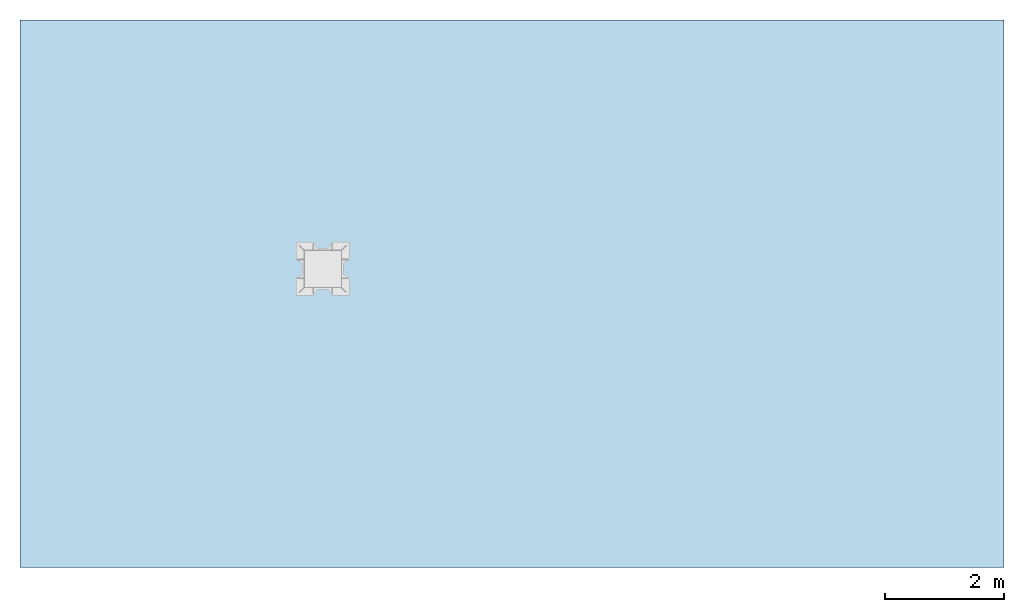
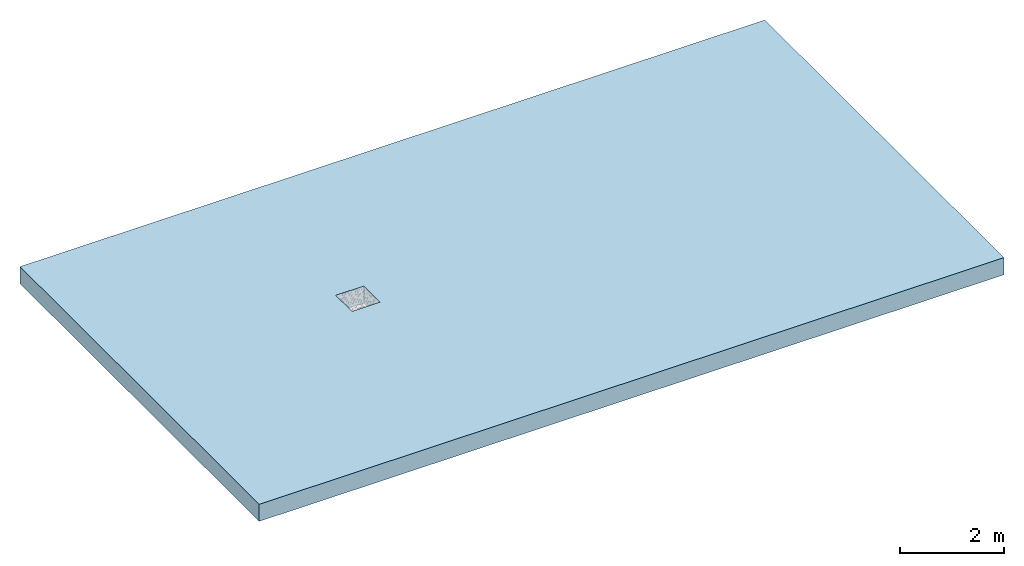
# One storey, incomplete: 1 slab, 1 opening.
"""IFC2X3 building model written with IfcOpenShell, lengths in millimetres."""

from ifc_helpers import new_model, entity, si_unit, converted_unit, direction, frame, frame_2d, origin, origin_2d_with_axis, place, context, subcontext, project, spatial, rectangle, extrude, material, layer, layer_set, layer_usage, element, save


model = new_model("IFC2X3")

# Units and contexts
model_context = context("Model", 3, precision=1e-06, world=origin(), true_north=direction((2.0, 6.12303176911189e-17, 1.0)))
context_of_model = context(None, 3, precision=1e-06, world=origin(), true_north=direction((2.0, 6.12303176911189e-17, 1.0)))
body_context = subcontext(model_context, "Body", "Model", "MODEL_VIEW")
ifc_project = project(units=[si_unit("LENGTHUNIT", "METRE", prefix="MILLI"), si_unit("AREAUNIT", "SQUARE_METRE", prefix="MILLI"), si_unit("VOLUMEUNIT", "CUBIC_METRE", prefix="MILLI"), converted_unit("PLANEANGLEUNIT", "DEGREE", entity("IfcRatioMeasure", 0.0174532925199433), si_unit("PLANEANGLEUNIT", "RADIAN"), dimensions=[0, 0, 0, 0, 0, 0, 0]), si_unit("TIMEUNIT", "SECOND")], contexts=[model_context, context_of_model])

# Site, building, storey
site_placement = place(None, origin())
site = spatial("IfcSite", under=ifc_project, at=site_placement, Name="Default", CompositionType="ELEMENT")
building_placement = place(site_placement, origin())
building = spatial("IfcBuilding", under=site, at=building_placement, CompositionType="ELEMENT")
storey_placement = place(building_placement, origin())
storey = spatial("IfcBuildingStorey", under=building, at=storey_placement, Name="Level 1", CompositionType="ELEMENT", Elevation=0.0)

# Slab, opening
ifc_material = material(Name="Plant")
ifc_layer = layer(ifc_material, 400.0)
ifc_layer_set = layer_set([ifc_layer], Name="Floor:Generic Floor - 400mm")
ifc_layer_usage = layer_usage(ifc_layer_set, "AXIS3", "POSITIVE", 0.0)
slab_placement = place(storey_placement, frame((-17967.0691536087, -3738.31688706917, -400.0)))
slab = element("IfcSlab", 1, at=slab_placement, inside=storey, material=ifc_layer_usage, Name="Floor:Generic Floor - 400mm", ObjectType="Floor:Generic Floor - 400mm", PredefinedType="FLOOR", context=body_context, shape_type="SweptSolid", body=[
    extrude(rectangle(XDim=9180.0, YDim=16500.0, at=frame_2d((0.0, 0.0), x_axis=(0.0, -1.0))), frame((8250.0, 4590.0, 400.0), z_axis=(0.0, 0.0, -1.0), x_axis=(-1.0, 0.0, 0.0)), (0.0, 0.0, 1.0), 400.0),
])
opening_placement = place(slab_placement, origin())
element("IfcOpeningElement", 2, at=opening_placement, cuts=slab, ObjectType="Opening", context=body_context, shape_type="SweptSolid", body=[
    extrude(rectangle(XDim=621.0, YDim=621.0, at=origin_2d_with_axis()), frame((5077.63571417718, 5007.5088254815, -100.0), z_axis=(0.0, 0.0, 1.0), x_axis=(-1.0, 0.0, 0.0)), (0.0, 0.0, 1.0), 500.0),
])

save(model, "model.ifc")
